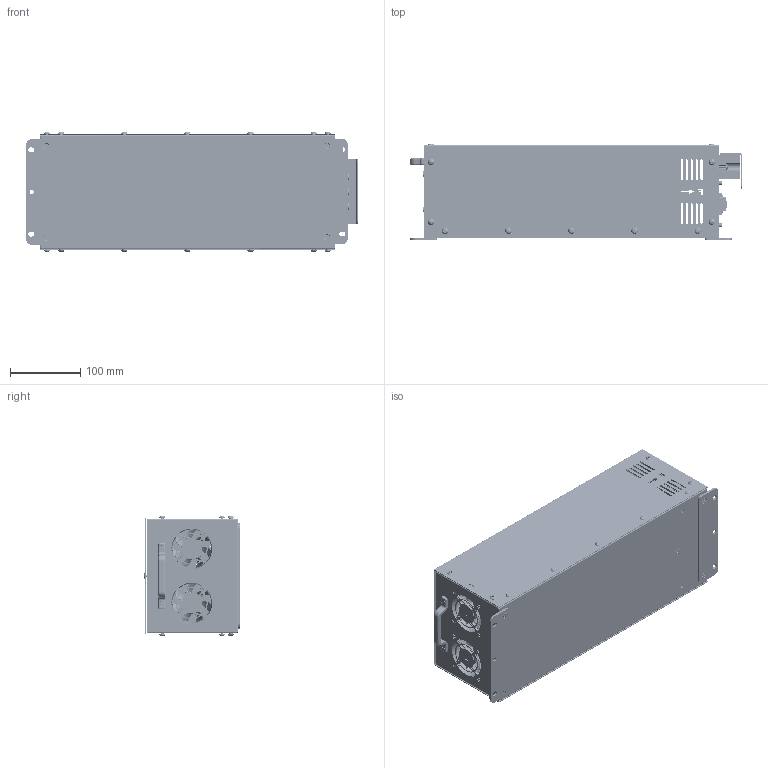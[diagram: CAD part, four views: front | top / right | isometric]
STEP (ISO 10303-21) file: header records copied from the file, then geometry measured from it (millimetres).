
FILE_DESCRIPTION(/* description */ (''),/* implementation_level */ '2;1');
FILE_NAME(/* name */ '',/* time_stamp */ '2026-08-21T17:13:00+09:00',/* author */ ('Administrator'),/* organization */ (''),/* preprocessor_version */ 'ST-DEVELOPER v20.1',/* originating_system */ 'Autodesk Inventor 2026',/* authorisation */ '');
FILE_SCHEMA (('AUTOMOTIVE_DESIGN { 1 0 10303 214 3 1 1 }'));
Products named in the file (1): VX2COM_OLED_Handle3_2026.06.09_단순화_1
Bounding box: 471.76 x 137.64 x 171.09 mm (x, y, z)
Volume: 602259.3 mm3; surface area: 745337.2 mm2
Topology: 14 solids, 14 shells, 6783 faces, 18079 edges, 11717 vertices
Faces by surface type: plane 3912, cylinder 1371, bspline 1269, torus 134, cone 73, sphere 24
Full cylindrical faces by diameter (mm): 0.013 x9, 0.6 x3, 0.609 x1, 0.61 x27, 0.635 x9, 0.7 x18, 0.75 x18, 0.85 x3, 0.9 x22, 1 x5, 1.397 x9, 1.5 x4, 2.1 x4, 2.286 x9, 2.5 x4, 2.8 x12, 2.957 x12, 3 x6, 3.048 x4, 3.4 x5, 3.6 x12, 3.783 x2, 3.8 x16, 3.9 x2, 4 x28, 4.3 x8, 4.5 x7, 5 x22, 5.3 x10, 5.4 x6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
Entity records: 241991 total; most frequent: CARTESIAN_POINT 70881, ORIENTED_EDGE 36114, DIRECTION 30333, EDGE_CURVE 18057, VERTEX_POINT 11717, LINE 11415, VECTOR 11415, AXIS2_PLACEMENT_3D 9459
